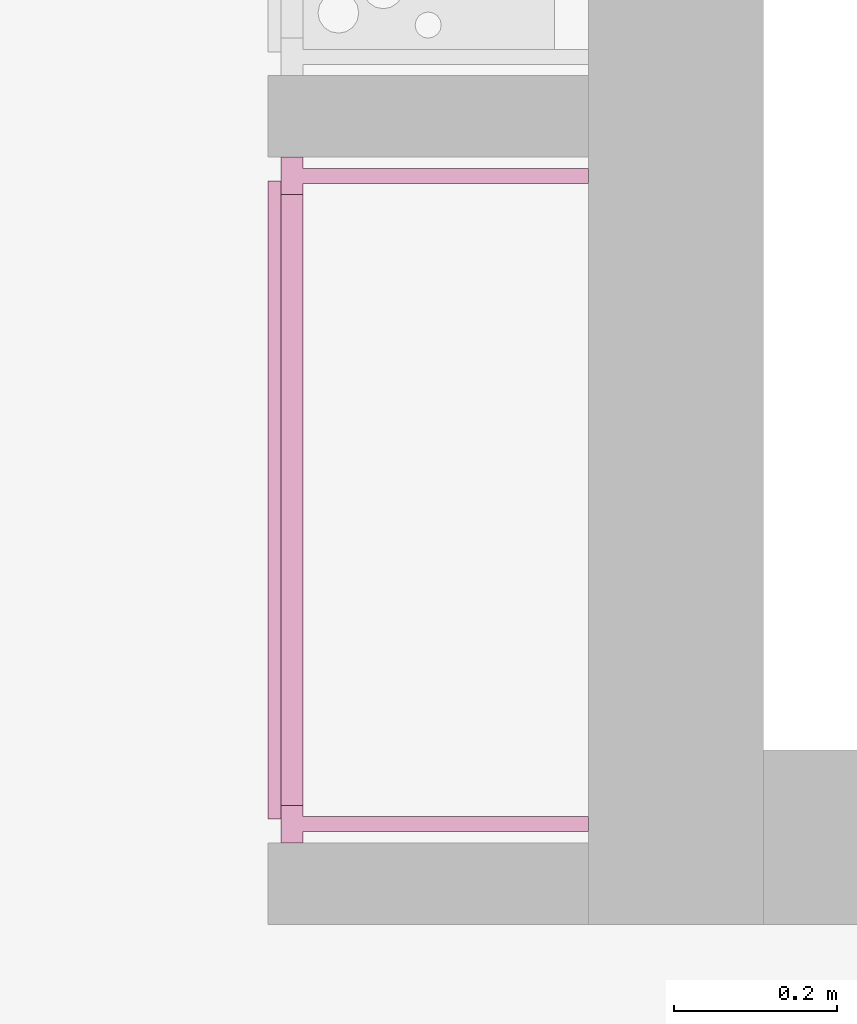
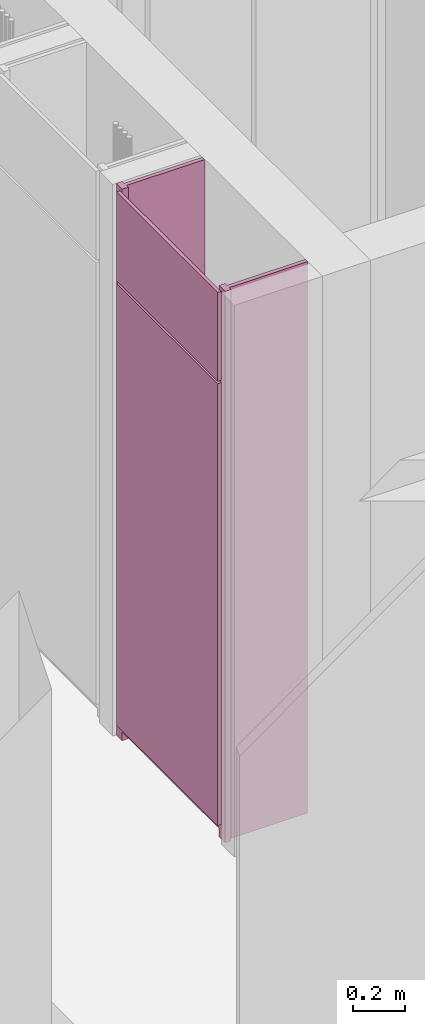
# One storey, part 15 of 22: 1 furnishing.
"""IFC2X3 building model written with IfcOpenShell, lengths in millimetres."""

from ifc_helpers import new_model, entity, si_unit, converted_unit, derived_unit, money_unit, direction, frame, origin_with_axes, place, context, subcontext, project, spatial, faceted_brep, source, transform, mapped, material, type_object, type_shapes, element, save


model = new_model("IFC2X3")

# Units and contexts
model_context = context("Model", 3, precision=0.01, world=origin_with_axes(), true_north=direction((0.0, 1.0)))
body_context = subcontext(model_context, "Body", "Model", "MODEL_VIEW")
ifc_project = project(units=[si_unit("LENGTHUNIT", "METRE", prefix="MILLI"), si_unit("AREAUNIT", "SQUARE_METRE"), si_unit("VOLUMEUNIT", "CUBIC_METRE"), converted_unit("PLANEANGLEUNIT", "DEGREE", entity("IfcPlaneAngleMeasure", 0.0174532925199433), si_unit("PLANEANGLEUNIT", "RADIAN"), dimensions=[0, 0, 0, 0, 0, 0, 0]), money_unit("EUR"), converted_unit("TIMEUNIT", "Year", entity("IfcTimeMeasure", 31557600.0), si_unit("TIMEUNIT", "SECOND"), dimensions=[0, 0, 1, 0, 0, 0, 0]), si_unit("MASSUNIT", "GRAM", prefix="KILO"), si_unit("THERMODYNAMICTEMPERATUREUNIT", "DEGREE_CELSIUS"), si_unit("LUMINOUSINTENSITYUNIT", "LUMEN"), si_unit("ENERGYUNIT", "JOULE", prefix="MEGA"), derived_unit("THERMALCONDUCTANCEUNIT", [(si_unit("POWERUNIT", "WATT"), 1), (si_unit("LENGTHUNIT", "METRE"), -1), (si_unit("THERMODYNAMICTEMPERATUREUNIT", "KELVIN"), -1)]), derived_unit("SPECIFICHEATCAPACITYUNIT", [(si_unit("ENERGYUNIT", "JOULE"), 1), (si_unit("MASSUNIT", "GRAM", prefix="KILO"), -1), (si_unit("THERMODYNAMICTEMPERATUREUNIT", "KELVIN"), -1)]), derived_unit("MASSDENSITYUNIT", [(si_unit("MASSUNIT", "GRAM", prefix="KILO"), 1), (si_unit("VOLUMEUNIT", "CUBIC_METRE"), -1)])], contexts=[model_context])

# Site, building, storey
site_placement = place(None, origin_with_axes())
site = spatial("IfcSite", under=ifc_project, at=site_placement, Name="Site", CompositionType="ELEMENT")
building_placement = place(site_placement, origin_with_axes())
building = spatial("IfcBuilding", under=site, at=building_placement, Name="Naam gebouw", CompositionType="ELEMENT")
storey_placement = place(building_placement, frame((0.0, 0.0, 11150.0), z_axis=(0.0, 0.0, 1.0), x_axis=(1.0, 0.0, 0.0)))
storey = spatial("IfcBuildingStorey", under=building, at=storey_placement, Name="3e verdieping/dak N", CompositionType="ELEMENT", Elevation=11150.0)

# Furnishing
ifc_material = material(Name="houtfineer")
furniture_type = type_object("IfcFurnitureType", Name="NLRS_60_CASE_werkkast_algemeen_WID:meterkast_algemeen_lxbxh 840x350x2600", AssemblyPlace="NOTDEFINED")
shared_shape = source(origin_with_axes(), body_context, "Body", "Brep", [
    faceted_brep([(-391.2961033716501, 0.0, 0.0), (-391.2961033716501, -359.0000000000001, 0.0), (-391.2961033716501, -359.0000000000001, 2600.0), (-391.2961033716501, 0.0, 2600.0), (-373.29967356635, 0.0, 0.0), (-373.29967356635, -359.0000000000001, 0.0), (-373.29967356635, -359.0000000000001, 2600.0), (-373.29967356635, 0.0, 2600.0)], [[[0, 1, 2, 3]], [[0, 4, 5, 1]], [[1, 5, 6, 2]], [[3, 2, 6, 7]], [[4, 0, 3, 7]], [[5, 4, 7, 6]]]),
    faceted_brep([(-376.29967356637, -393.0000000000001, 2164.0), (405.70032643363, -393.0000000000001, 2164.0), (405.70032643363, -393.0000000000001, 2583.0), (-376.29967356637, -393.0000000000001, 2583.0), (-376.29967356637, -377.0000000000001, 2164.0), (405.70032643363, -377.0000000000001, 2164.0), (405.70032643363, -377.0000000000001, 2583.0), (-376.29967356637, -377.0000000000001, 2583.0)], [[[0, 1, 2, 3]], [[0, 4, 5, 1]], [[1, 5, 6, 2]], [[3, 2, 6, 7]], [[4, 0, 3, 7]], [[5, 4, 7, 6]]]),
    faceted_brep([(402.70211153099, -359.0000000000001, 0.0), (420.69854133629, -359.0000000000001, 0.0), (420.69854133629, -359.0000000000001, 2600.0), (402.70211153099, -359.0000000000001, 2600.0), (402.70211153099, 0.0, 0.0), (420.69854133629, 0.0, 0.0), (420.69854133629, 0.0, 2600.0), (402.70211153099, 0.0, 2600.0)], [[[0, 1, 2, 3]], [[0, 4, 5, 1]], [[1, 5, 6, 2]], [[3, 2, 6, 7]], [[4, 0, 3, 7]], [[5, 4, 7, 6]]]),
    faceted_brep([(434.70032643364, -377.0000000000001, 0.0), (434.70032643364, -350.0000000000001, 0.0), (434.70032643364, -350.0000000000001, 2600.0), (434.70032643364, -377.0000000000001, 2600.0), (388.70032643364, -377.0000000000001, 0.0), (388.70032643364, -350.0000000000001, 0.0), (402.70211153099, -350.0000000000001, 0.0), (402.70211153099, -359.0000000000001, 0.0), (420.69854133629, -359.0000000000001, 0.0), (420.69854133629, -350.0000000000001, 0.0), (420.69854133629, -350.0000000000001, 2600.0), (420.69854133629, -359.0000000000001, 2600.0), (402.70211153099, -359.0000000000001, 2600.0), (402.70211153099, -350.0000000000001, 2600.0), (388.70032643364, -350.0000000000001, 2600.0), (388.70032643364, -377.0000000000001, 2600.0)], [[[0, 1, 2, 3]], [[0, 4, 5, 6, 7, 8, 9, 1]], [[1, 9, 10, 2]], [[3, 2, 10, 11, 12, 13, 14, 15]], [[4, 0, 3, 15]], [[5, 4, 15, 14]], [[6, 5, 14, 13]], [[7, 6, 13, 12]], [[8, 7, 12, 11]], [[9, 8, 11, 10]]]),
    faceted_brep([(-359.29967356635, -377.0000000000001, 0.0), (-359.29967356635, -350.0000000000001, 0.0), (-359.29967356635, -350.0000000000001, 2600.0), (-359.29967356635, -377.0000000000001, 2600.0), (-405.2996735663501, -377.0000000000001, 0.0), (-405.2996735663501, -350.0000000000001, 0.0), (-391.297888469, -350.0000000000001, 0.0), (-391.297888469, -359.0000000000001, 0.0), (-373.3014586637, -359.0000000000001, 0.0), (-373.3014586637, -350.0000000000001, 0.0), (-373.3014586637, -350.0000000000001, 2600.0), (-373.3014586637, -359.0000000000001, 2600.0), (-391.297888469, -359.0000000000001, 2600.0), (-391.297888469, -350.0000000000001, 2600.0), (-405.2996735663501, -350.0000000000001, 2600.0), (-405.2996735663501, -377.0000000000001, 2600.0)], [[[0, 1, 2, 3]], [[0, 4, 5, 6, 7, 8, 9, 1]], [[1, 9, 10, 2]], [[3, 2, 10, 11, 12, 13, 14, 15]], [[4, 0, 3, 15]], [[5, 4, 15, 14]], [[6, 5, 14, 13]], [[7, 6, 13, 12]], [[8, 7, 12, 11]], [[9, 8, 11, 10]]]),
    faceted_brep([(-376.2996735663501, -393.0000000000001, 69.0), (405.7003264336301, -393.0000000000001, 69.0), (405.7003264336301, -393.0000000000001, 2152.0), (-376.2996735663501, -393.0000000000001, 2152.0), (-376.2996735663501, -377.0000000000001, 69.0), (405.7003264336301, -377.0000000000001, 69.0), (405.7003264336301, -377.0000000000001, 2152.0), (-376.2996735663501, -377.0000000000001, 2152.0)], [[[0, 1, 2, 3]], [[0, 4, 5, 1]], [[1, 5, 6, 2]], [[3, 2, 6, 7]], [[4, 0, 3, 7]], [[5, 4, 7, 6]]]),
    faceted_brep([(-359.29967356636, -377.0000000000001, 2135.0), (-359.29967356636, -350.0000000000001, 2135.0), (388.7003264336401, -350.0000000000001, 2135.0), (388.7003264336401, -377.0000000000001, 2135.0), (-359.29967356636, -377.0000000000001, 2181.0), (-359.29967356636, -350.0000000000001, 2181.0), (-359.29967356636, -350.0000000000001, 2166.99821490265), (-359.29967356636, -359.0000000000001, 2166.99821490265), (-359.29967356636, -359.0000000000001, 2149.00178509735), (-359.29967356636, -350.0000000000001, 2149.00178509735), (388.7003264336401, -350.0000000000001, 2149.00178509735), (388.7003264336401, -359.0000000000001, 2149.00178509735), (388.7003264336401, -359.0000000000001, 2166.99821490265), (388.7003264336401, -350.0000000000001, 2166.99821490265), (388.7003264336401, -350.0000000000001, 2181.0), (388.7003264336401, -377.0000000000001, 2181.0)], [[[0, 1, 2, 3]], [[0, 4, 5, 6, 7, 8, 9, 1]], [[1, 9, 10, 2]], [[3, 2, 10, 11, 12, 13, 14, 15]], [[4, 0, 3, 15]], [[5, 4, 15, 14]], [[6, 5, 14, 13]], [[7, 6, 13, 12]], [[8, 7, 12, 11]], [[9, 8, 11, 10]]]),
    faceted_brep([(-359.29967356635, -377.0000000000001, 40.0), (-359.29967356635, -350.0000000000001, 40.0), (388.7003264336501, -350.0000000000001, 40.0), (388.7003264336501, -377.0000000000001, 40.0), (-359.29967356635, -377.0000000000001, 86.0), (-359.29967356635, -350.0000000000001, 86.0), (-359.29967356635, -350.0000000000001, 71.99821490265), (-359.29967356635, -359.0000000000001, 71.99821490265), (-359.29967356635, -359.0000000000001, 54.00178509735), (-359.29967356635, -350.0000000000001, 54.00178509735), (388.7003264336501, -350.0000000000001, 54.00178509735), (388.7003264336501, -359.0000000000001, 54.00178509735), (388.7003264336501, -359.0000000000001, 71.99821490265), (388.7003264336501, -350.0000000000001, 71.99821490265), (388.7003264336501, -350.0000000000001, 86.0), (388.7003264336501, -377.0000000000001, 86.0)], [[[0, 1, 2, 3]], [[0, 4, 5, 6, 7, 8, 9, 1]], [[1, 9, 10, 2]], [[3, 2, 10, 11, 12, 13, 14, 15]], [[4, 0, 3, 15]], [[5, 4, 15, 14]], [[6, 5, 14, 13]], [[7, 6, 13, 12]], [[8, 7, 12, 11]], [[9, 8, 11, 10]]]),
])
type_shapes(furniture_type, [shared_shape])
furnishing_placement = place(storey_placement, frame((31684.00000003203, 34680.61275273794, 310.0000000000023), z_axis=(0.0, 0.0, 1.0), x_axis=(0.0, -1.0, 0.0)))
element("IfcFurnishingElement", 1, at=furnishing_placement, inside=storey, type_object=furniture_type, material=ifc_material, Name="NLRS_60_CASE_werkkast_algemeen_WID:meterkast_algemeen_lxbxh 840x350x2600", context=body_context, shape_type="MappedRepresentation", body=[
    mapped(shared_shape, transform((0.0, 0.0, 0.0))),
])

save(model, "model.ifc")
